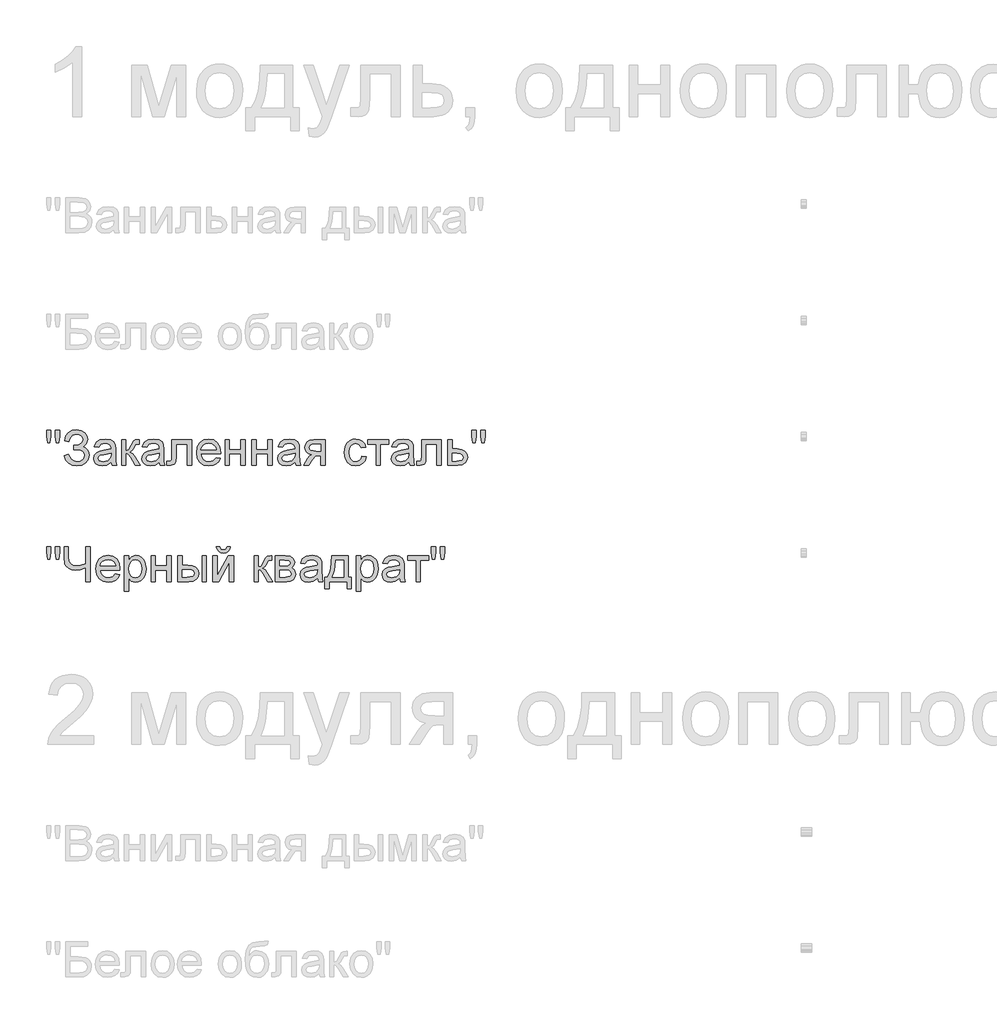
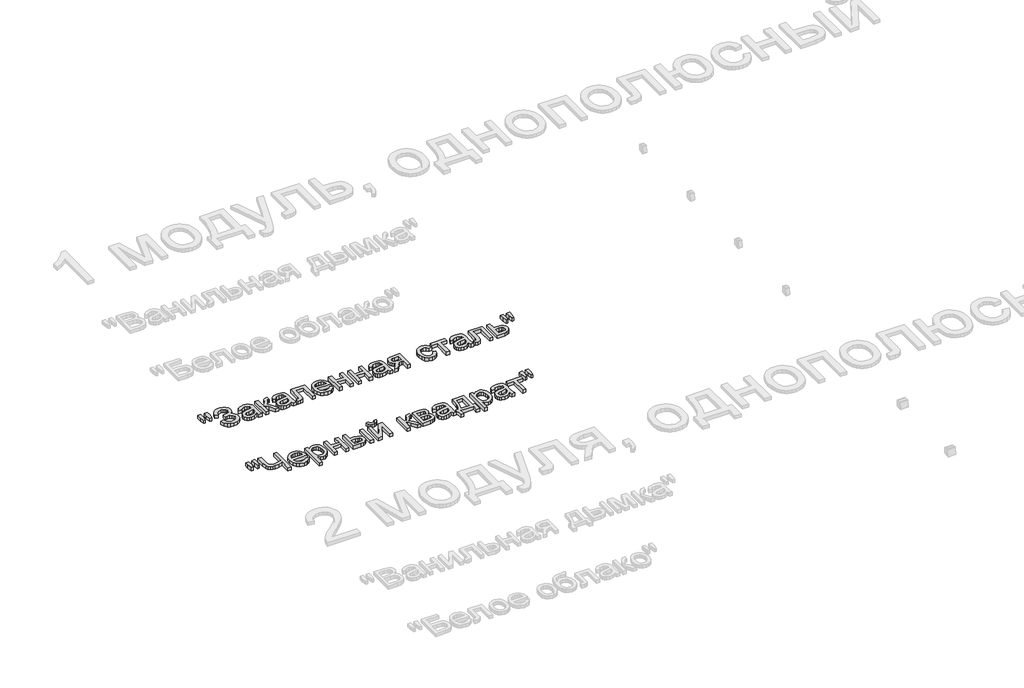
# One storey, part 18 of 168: 2 proxies.
"""IFC4 building model written with IfcOpenShell, lengths in millimetres."""

from ifc_helpers import new_model, si_unit, origin, origin_with_axes, place, context, project, spatial, polyline, outline, extrude, element, save

model = new_model("IFC4")

# Units and contexts
model_context = context("Model", 3, world=origin())
ifc_project = project(units=[si_unit("LENGTHUNIT", "METRE", prefix="MILLI")], contexts=[model_context])

# Site, building, storey
site = spatial("IfcSite", under=ifc_project)
building = spatial("IfcBuilding", under=site)
storey = spatial("IfcBuildingStorey", under=building, Name="Этаж 01", Elevation=0.0)

# Proxies
placement = place(None, origin())
element("IfcBuildingElementProxy", 1, Name="150", ObjectType="150", at=placement, inside=storey, context=model_context, shape_type="SweptSolid", body=[
    extrude(outline(polyline([(41980.1485789, -48064.0640488), (41975.550054, -48034.9645829), (41975.550054, -48009.9118191), (41994.3856121, -48009.9118191), (41994.3856121, -48034.9645829), (41990.2653338, -48064.0640488), (41980.1485789, -48064.0640488)])), origin_with_axes(), (0.0, 0.0, 1.0), 20.0),
    extrude(outline(polyline([(42017.7093306, -48064.0640488), (42013.2211703, -48034.9645829), (42013.2211703, -48009.9118191), (42032.0567284, -48009.9118191), (42032.0567284, -48034.9645829), (42027.6421445, -48064.0640488), (42017.7093306, -48064.0640488)])), origin_with_axes(), (0.0, 0.0, 1.0), 20.0),
    extrude(outline(polyline([(42050.8922866, -48118.2162785), (42069.7278447, -48113.5073889), (42081.2977335, -48133.9064456), (42092.2284273, -48141.5629896), (42106.2217387, -48144.1151709), (42120.398991, -48142.197586), (42131.2193202, -48136.4448313), (42138.0757209, -48127.9789469), (42140.3611878, -48117.9219729), (42137.8641888, -48107.3867522), (42130.3731916, -48099.2519616), (42118.5779752, -48094.0510299), (42103.1683181, -48092.317386), (42093.2722924, -48092.317386), (42093.2722924, -48073.4818278), (42114.591054, -48071.9551176), (42127.6324708, -48064.1560193), (42133.2978535, -48049.900592), (42131.4124583, -48041.0300373), (42125.7562726, -48033.4010845), (42116.8811195, -48028.1449705), (42105.3388219, -48026.3929325), (42086.1169876, -48031.7824037), (42075.117316, -48046.0746192), (42072.0822895, -48059.3551592), (42053.2467313, -48054.6462697), (42059.0983543, -48034.044878), (42069.7002536, -48019.3295982), (42085.0524291, -48010.5004303), (42105.1548809, -48007.5573743), (42124.5468605, -48010.6153934), (42139.4598769, -48019.7894506), (42148.965028, -48033.0561951), (42152.1334117, -48048.3922758), (42147.2037929, -48067.0346959), (42132.4149367, -48080.9498323), (42142.8903765, -48085.773685), (42151.5080123, -48093.9176727), (42157.2745625, -48104.6828196), (42159.196746, -48117.3701499), (42155.508729, -48135.2078281), (42144.444678, -48149.8725241), (42127.2921799, -48159.6811778), (42105.3388219, -48162.9507291), (42086.2365493, -48160.1548259), (42070.7947025, -48151.7671164), (42059.0132816, -48137.7876006), (42050.8922866, -48118.2162785)])), origin_with_axes(), (0.0, 0.0, 1.0), 20.0),
    extrude(outline(polyline([(42253.3745367, -48146.4696157), (42235.1091957, -48159.2351209), (42214.9308682, -48162.9507291), (42199.1901174, -48160.7158459), (42187.5788419, -48154.0111966), (42180.4189386, -48143.8300624), (42178.0323041, -48131.1657247), (42181.6375477, -48116.2665039), (42191.110509, -48105.4507732), (42204.2990786, -48099.2703557), (42220.596251, -48096.4376643), (42253.2641721, -48089.9629412), (42253.3745367, -48085.7690865), (42252.0777527, -48077.3629829), (42248.1874006, -48071.8631471), (42239.4869914, -48067.7796569), (42227.3652797, -48066.4184935), (42208.3089923, -48070.0421312), (42199.222307, -48082.8996069), (42180.3867489, -48080.5451621), (42188.5353351, -48062.1510624), (42204.9428721, -48051.3721199), (42229.7933008, -48047.5829354), (42252.6203786, -48050.9306615), (42265.5146426, -48059.3367651), (42271.2903899, -48072.1206645), (42272.2100949, -48088.6017778), (42272.2100949, -48112.0358609), (42273.1665881, -48144.7589644), (42276.9189844, -48160.5962843), (42258.0834263, -48160.5962843), (42253.3745367, -48146.4696157)]), holes=[polyline([(42253.3745367, -48108.7984994), (42222.9874839, -48114.5742467), (42206.782282, -48117.6276673), (42199.4430362, -48122.5940742), (42196.8678623, -48129.8413495), (42202.4780627, -48140.0316808), (42218.940782, -48144.1151709), (42237.9970693, -48139.6086165), (42250.284328, -48128.7009153), (42253.2641721, -48114.1327883), (42253.3745367, -48108.7984994)])]), origin_with_axes(), (0.0, 0.0, 1.0), 20.0),
    extrude(outline(polyline([(42298.1089873, -48049.9373802), (42316.9445455, -48049.9373802), (42316.9445455, -48097.0262755), (42329.5628979, -48093.6417612), (42339.900382, -48073.9232862), (42348.4904266, -48056.908744), (42356.0687957, -48051.3721199), (42369.8459764, -48049.9373802), (42373.4512199, -48049.9373802), (42373.4512199, -48068.8833029), (42368.3744484, -48068.7729383), (42359.1773985, -48070.7595011), (42352.7026754, -48083.1571243), (42345.1059122, -48096.566423), (42334.4557285, -48103.1331167), (42346.3383169, -48110.4631654), (42358.0001762, -48125.9050122), (42378.1601095, -48160.5962843), (42356.7493774, -48160.5962843), (42336.9941142, -48126.6407761), (42327.0613004, -48112.2749842), (42316.9445455, -48108.7984994), (42316.9445455, -48160.5962843), (42298.1089873, -48160.5962843), (42298.1089873, -48049.9373802)])), origin_with_axes(), (0.0, 0.0, 1.0), 20.0),
    extrude(outline(polyline([(42460.5656764, -48146.4696157), (42442.3003353, -48159.2351209), (42422.1220079, -48162.9507291), (42406.381257, -48160.7158459), (42394.7699816, -48154.0111966), (42387.6100782, -48143.8300624), (42385.2234438, -48131.1657247), (42388.8286873, -48116.2665039), (42398.3016487, -48105.4507732), (42411.4902183, -48099.2703557), (42427.7873906, -48096.4376643), (42460.4553118, -48089.9629412), (42460.5656764, -48085.7690865), (42459.2688924, -48077.3629829), (42455.3785403, -48071.8631471), (42446.6781311, -48067.7796569), (42434.5564193, -48066.4184935), (42415.500132, -48070.0421312), (42406.4134467, -48082.8996069), (42387.5778886, -48080.5451621), (42395.7264748, -48062.1510624), (42412.1340117, -48051.3721199), (42436.9844405, -48047.5829354), (42459.8115183, -48050.9306615), (42472.7057822, -48059.3367651), (42478.4815296, -48072.1206645), (42479.4012346, -48088.6017778), (42479.4012346, -48112.0358609), (42480.3577277, -48144.7589644), (42484.1101241, -48160.5962843), (42465.2745659, -48160.5962843), (42460.5656764, -48146.4696157)]), holes=[polyline([(42460.5656764, -48108.7984994), (42430.1786236, -48114.5742467), (42413.9734217, -48117.6276673), (42406.6341759, -48122.5940742), (42404.0590019, -48129.8413495), (42409.6692024, -48140.0316808), (42426.1319217, -48144.1151709), (42445.188209, -48139.6086165), (42457.4754676, -48128.7009153), (42460.4553118, -48114.1327883), (42460.5656764, -48108.7984994)])]), origin_with_axes(), (0.0, 0.0, 1.0), 20.0),
    extrude(outline(polyline([(42514.7179061, -48049.9373802), (42599.4779178, -48049.9373802), (42599.4779178, -48160.4859197), (42580.6423596, -48160.4859197), (42580.6423596, -48068.7729383), (42533.5534643, -48068.7729383), (42533.5534643, -48121.5640046), (42532.2842714, -48145.9177927), (42525.3129076, -48156.2000945), (42508.8317942, -48160.5962843), (42493.5279032, -48159.6397911), (42493.5279032, -48141.7607261), (42501.9524009, -48141.7607261), (42510.4688691, -48140.6018979), (42513.8717775, -48136.9230779), (42514.7179061, -48120.4971468), (42514.7179061, -48049.9373802)])), origin_with_axes(), (0.0, 0.0, 1.0), 20.0),
    extrude(outline(polyline([(42705.2072032, -48127.6340575), (42723.6748794, -48129.9885023), (42717.0208138, -48143.9036388), (42706.4028197, -48154.3055022), (42692.0600204, -48160.7894223), (42674.2315392, -48162.9507291), (42652.1310283, -48159.2213253), (42635.1256831, -48148.0331142), (42624.2823613, -48130.1126625), (42620.6679207, -48106.1865372), (42624.3191495, -48081.4556701), (42635.2728359, -48062.9604028), (42652.0482549, -48051.4273022), (42673.1646814, -48047.5829354), (42693.6235189, -48051.4181052), (42709.971275, -48062.9236146), (42720.6904367, -48081.3820937), (42724.2634906, -48106.0761726), (42724.153126, -48111.1529441), (42639.5034789, -48111.1529441), (42642.763833, -48125.2520216), (42650.3376036, -48135.6170968), (42661.2682974, -48141.9906524), (42674.5994212, -48144.1151709), (42693.0670974, -48140.1788336), (42705.2072032, -48127.6340575)]), holes=[polyline([(42639.5034789, -48092.317386), (42705.4279324, -48092.317386), (42702.8803496, -48082.366178), (42697.8863515, -48075.2476614), (42686.9050739, -48068.6257855), (42673.091105, -48066.4184935), (42660.3945777, -48068.1797286), (42649.8961452, -48073.4634337), (42642.5982861, -48081.6993919), (42639.5034789, -48092.317386)])]), origin_with_axes(), (0.0, 0.0, 1.0), 20.0),
    extrude(outline(polyline([(42743.0990487, -48049.9373802), (42761.9346069, -48049.9373802), (42761.9346069, -48092.317386), (42811.377947, -48092.317386), (42811.377947, -48049.9373802), (42830.2135052, -48049.9373802), (42830.2135052, -48160.5962843), (42811.377947, -48160.5962843), (42811.377947, -48111.1529441), (42761.9346069, -48111.1529441), (42761.9346069, -48160.5962843), (42743.0990487, -48160.5962843), (42743.0990487, -48049.9373802)])), origin_with_axes(), (0.0, 0.0, 1.0), 20.0),
    extrude(outline(polyline([(42858.4668424, -48049.9373802), (42877.3024005, -48049.9373802), (42877.3024005, -48092.317386), (42926.7457407, -48092.317386), (42926.7457407, -48049.9373802), (42945.5812988, -48049.9373802), (42945.5812988, -48160.5962843), (42926.7457407, -48160.5962843), (42926.7457407, -48111.1529441), (42877.3024005, -48111.1529441), (42877.3024005, -48160.5962843), (42858.4668424, -48160.5962843), (42858.4668424, -48049.9373802)])), origin_with_axes(), (0.0, 0.0, 1.0), 20.0),
    extrude(outline(polyline([(43044.4679792, -48146.4696157), (43026.2026381, -48159.2351209), (43006.0243107, -48162.9507291), (42990.2835598, -48160.7158459), (42978.6722843, -48154.0111966), (42971.512381, -48143.8300624), (42969.1257465, -48131.1657247), (42972.7309901, -48116.2665039), (42982.2039515, -48105.4507732), (42995.392521, -48099.2703557), (43011.6896934, -48096.4376643), (43044.3576146, -48089.9629412), (43044.4679792, -48085.7690865), (43043.1711951, -48077.3629829), (43039.280843, -48071.8631471), (43030.5804338, -48067.7796569), (43018.4587221, -48066.4184935), (42999.4024347, -48070.0421312), (42990.3157495, -48082.8996069), (42971.4801913, -48080.5451621), (42979.6287775, -48062.1510624), (42996.0363145, -48051.3721199), (43020.8867433, -48047.5829354), (43043.7138211, -48050.9306615), (43056.608085, -48059.3367651), (43062.3838323, -48072.1206645), (43063.3035373, -48088.6017778), (43063.3035373, -48112.0358609), (43064.2600305, -48144.7589644), (43068.0124268, -48160.5962843), (43049.1768687, -48160.5962843), (43044.4679792, -48146.4696157)]), holes=[polyline([(43044.4679792, -48108.7984994), (43014.0809264, -48114.5742467), (42997.8757245, -48117.6276673), (42990.5364787, -48122.5940742), (42987.9613047, -48129.8413495), (42993.5715051, -48140.0316808), (43010.0342244, -48144.1151709), (43029.0905118, -48139.6086165), (43041.3777704, -48128.7009153), (43044.3576146, -48114.1327883), (43044.4679792, -48108.7984994)])]), origin_with_axes(), (0.0, 0.0, 1.0), 20.0),
    extrude(outline(polyline([(43173.9624415, -48049.9373802), (43173.9624415, -48160.5962843), (43155.1268833, -48160.5962843), (43155.1268833, -48118.2162785), (43144.8629756, -48118.2162785), (43130.8834598, -48120.6075114), (43117.7500726, -48136.6839546), (43102.7404872, -48160.5962843), (43080.9618731, -48160.5962843), (43099.8710076, -48130.3563843), (43108.2219289, -48119.5038654), (43115.9106626, -48114.6846113), (43103.0347928, -48110.7390769), (43093.9848957, -48103.2434813), (43088.6322127, -48093.2738792), (43086.847985, -48081.9063255), (43089.2852032, -48069.0120616), (43096.5968579, -48058.8033362), (43108.5254316, -48052.1538692), (43124.8134069, -48049.9373802), (43173.9624415, -48049.9373802)]), holes=[polyline([(43155.1268833, -48068.7729383), (43130.2948486, -48068.7729383), (43117.4695626, -48069.8627887), (43110.1900976, -48073.1323399), (43105.6835431, -48083.3410653), (43107.3436107, -48090.5193627), (43112.3238132, -48095.4995653), (43135.8498668, -48099.3807203), (43155.1268833, -48099.3807203), (43155.1268833, -48068.7729383)])]), origin_with_axes(), (0.0, 0.0, 1.0), 20.0),
    extrude(outline(polyline([(43331.710241, -48120.5707232), (43350.5457991, -48122.925168), (43345.2942837, -48139.6775943), (43335.4258491, -48152.3373335), (43321.8693976, -48160.2973802), (43305.5538311, -48162.9507291), (43285.518058, -48159.2489165), (43269.8508835, -48148.1434788), (43259.7387272, -48130.1218595), (43256.3680084, -48105.6715024), (43257.8073467, -48088.909879), (43262.1253616, -48074.3831387), (43269.391031, -48062.6523016), (43279.6733328, -48054.2783877), (43291.974387, -48049.2567985), (43305.2963137, -48047.5829354), (43321.2118085, -48049.8821979), (43333.9359271, -48056.7799853), (43343.0639991, -48067.9084156), (43348.1913544, -48082.8996069), (43329.3557962, -48085.2540517), (43320.6185988, -48071.1457772), (43305.4434665, -48066.4184935), (43293.271171, -48068.7453472), (43283.6096701, -48075.725908), (43277.3050924, -48087.7372552), (43275.2035665, -48105.1564676), (43277.2591072, -48122.8102049), (43283.4257291, -48134.8629387), (43292.9124861, -48141.8021129), (43304.9284317, -48144.1151709), (43314.6819031, -48142.6712341), (43322.678738, -48138.3394236), (43328.4958721, -48131.0093748), (43331.710241, -48120.5707232)])), origin_with_axes(), (0.0, 0.0, 1.0), 20.0),
    extrude(outline(polyline([(43357.6091334, -48049.9373802), (43447.0780347, -48049.9373802), (43447.0780347, -48068.7729383), (43411.7613631, -48068.7729383), (43411.7613631, -48160.5962843), (43392.925805, -48160.5962843), (43392.925805, -48068.7729383), (43357.6091334, -48068.7729383), (43357.6091334, -48049.9373802)])), origin_with_axes(), (0.0, 0.0, 1.0), 20.0),
    extrude(outline(polyline([(43534.1924911, -48146.4696157), (43515.9271501, -48159.2351209), (43495.7488226, -48162.9507291), (43480.0080718, -48160.7158459), (43468.3967963, -48154.0111966), (43461.236893, -48143.8300624), (43458.8502585, -48131.1657247), (43462.4555021, -48116.2665039), (43471.9284634, -48105.4507732), (43485.117033, -48099.2703557), (43501.4142054, -48096.4376643), (43534.0821265, -48089.9629412), (43534.1924911, -48085.7690865), (43532.8957071, -48077.3629829), (43529.005355, -48071.8631471), (43520.3049458, -48067.7796569), (43508.1832341, -48066.4184935), (43489.1269467, -48070.0421312), (43480.0402614, -48082.8996069), (43461.2047033, -48080.5451621), (43469.3532895, -48062.1510624), (43485.7608265, -48051.3721199), (43510.6112552, -48047.5829354), (43533.438333, -48050.9306615), (43546.332597, -48059.3367651), (43552.1083443, -48072.1206645), (43553.0280493, -48088.6017778), (43553.0280493, -48112.0358609), (43553.9845425, -48144.7589644), (43557.7369388, -48160.5962843), (43538.9013807, -48160.5962843), (43534.1924911, -48146.4696157)]), holes=[polyline([(43534.1924911, -48108.7984994), (43503.8054383, -48114.5742467), (43487.6002364, -48117.6276673), (43480.2609906, -48122.5940742), (43477.6858167, -48129.8413495), (43483.2960171, -48140.0316808), (43499.7587364, -48144.1151709), (43518.8150237, -48139.6086165), (43531.1022824, -48128.7009153), (43534.0821265, -48114.1327883), (43534.1924911, -48108.7984994)])]), origin_with_axes(), (0.0, 0.0, 1.0), 20.0),
    extrude(outline(polyline([(43588.3447208, -48049.9373802), (43673.1047325, -48049.9373802), (43673.1047325, -48160.4859197), (43654.2691744, -48160.4859197), (43654.2691744, -48068.7729383), (43607.180279, -48068.7729383), (43607.180279, -48121.5640046), (43605.9110861, -48145.9177927), (43598.9397223, -48156.2000945), (43582.4586089, -48160.5962843), (43567.1547179, -48159.6397911), (43567.1547179, -48141.7607261), (43575.5792156, -48141.7607261), (43584.0956838, -48140.6018979), (43587.4985922, -48136.9230779), (43588.3447208, -48120.4971468), (43588.3447208, -48049.9373802)])), origin_with_axes(), (0.0, 0.0, 1.0), 20.0),
    extrude(outline(polyline([(43701.3580697, -48049.9373802), (43720.1936279, -48049.9373802), (43720.1936279, -48089.9629412), (43741.8986656, -48089.9629412), (43760.7158297, -48092.3219845), (43774.6401632, -48099.3991144), (43783.2486019, -48110.6241138), (43786.1180814, -48125.4267656), (43783.6762647, -48138.9050422), (43776.3508145, -48150.2771943), (43763.6542871, -48158.0165118), (43745.099239, -48160.5962843), (43701.3580697, -48160.5962843), (43701.3580697, -48049.9373802)]), holes=[polyline([(43720.1936279, -48141.7607261), (43737.7783873, -48141.7607261), (43760.4951005, -48137.8059947), (43765.5856676, -48132.7430187), (43767.2825233, -48125.4635538), (43762.260934, -48113.8752709), (43754.1905228, -48110.0676923), (43740.0224674, -48108.7984994), (43720.1936279, -48108.7984994), (43720.1936279, -48141.7607261)])]), origin_with_axes(), (0.0, 0.0, 1.0), 20.0),
    extrude(outline(polyline([(43809.5521645, -48064.0640488), (43804.9536396, -48034.9645829), (43804.9536396, -48009.9118191), (43823.7891977, -48009.9118191), (43823.7891977, -48034.9645829), (43819.6689194, -48064.0640488), (43809.5521645, -48064.0640488)])), origin_with_axes(), (0.0, 0.0, 1.0), 20.0),
    extrude(outline(polyline([(43847.1129162, -48064.0640488), (43842.6247559, -48034.9645829), (43842.6247559, -48009.9118191), (43861.460314, -48009.9118191), (43861.460314, -48034.9645829), (43857.0457301, -48064.0640488), (43847.1129162, -48064.0640488)])), origin_with_axes(), (0.0, 0.0, 1.0), 20.0),
])
element("IfcBuildingElementProxy", 2, Name="150", ObjectType="150", at=placement, inside=storey, context=model_context, shape_type="SweptSolid", body=[
    extrude(outline(polyline([(41980.1485789, -48564.0640488), (41975.550054, -48534.9645829), (41975.550054, -48509.9118191), (41994.3856121, -48509.9118191), (41994.3856121, -48534.9645829), (41990.2653338, -48564.0640488), (41980.1485789, -48564.0640488)])), origin_with_axes(), (0.0, 0.0, 1.0), 20.0),
    extrude(outline(polyline([(42017.7093306, -48564.0640488), (42013.2211703, -48534.9645829), (42013.2211703, -48509.9118191), (42032.0567284, -48509.9118191), (42032.0567284, -48534.9645829), (42027.6421445, -48564.0640488), (42017.7093306, -48564.0640488)])), origin_with_axes(), (0.0, 0.0, 1.0), 20.0),
    extrude(outline(polyline([(42163.9056355, -48660.5962843), (42145.0700773, -48660.5962843), (42145.0700773, -48600.2636371), (42120.0908899, -48608.4306174), (42098.4226404, -48611.1529441), (42083.7395502, -48609.2905415), (42070.886673, -48603.7033337), (42060.926268, -48595.2512449), (42054.9205944, -48584.7941992), (42050.8922866, -48554.7934225), (42050.8922866, -48509.9118191), (42069.7278447, -48509.9118191), (42069.7278447, -48552.2550367), (42071.990319, -48572.6219037), (42078.7777418, -48584.57347), (42088.7381468, -48590.381407), (42100.5195677, -48592.317386), (42122.2521966, -48589.9813353), (42145.0700773, -48582.9731833), (42145.0700773, -48509.9118191), (42163.9056355, -48509.9118191), (42163.9056355, -48660.5962843)])), origin_with_axes(), (0.0, 0.0, 1.0), 20.0),
    extrude(outline(polyline([(42271.9893657, -48627.6340575), (42290.4570418, -48629.9885023), (42283.8029762, -48643.9036388), (42273.1849822, -48654.3055022), (42258.8421829, -48660.7894223), (42241.0137017, -48662.9507291), (42218.9131908, -48659.2213253), (42201.9078456, -48648.0331142), (42191.0645238, -48630.1126625), (42187.4500832, -48606.1865372), (42191.101312, -48581.4556701), (42202.0549984, -48562.9604028), (42218.8304174, -48551.4273022), (42239.9468439, -48547.5829354), (42260.4056814, -48551.4181052), (42276.7534375, -48562.9236146), (42287.4725992, -48581.3820937), (42291.045653, -48606.0761726), (42290.9352884, -48611.1529441), (42206.2856413, -48611.1529441), (42209.5459955, -48625.2520216), (42217.1197661, -48635.6170968), (42228.0504599, -48641.9906524), (42241.3815837, -48644.1151709), (42259.8492598, -48640.1788336), (42271.9893657, -48627.6340575)]), holes=[polyline([(42206.2856413, -48592.317386), (42272.2100949, -48592.317386), (42269.6625121, -48582.366178), (42264.668514, -48575.2476614), (42253.6872364, -48568.6257855), (42239.8732675, -48566.4184935), (42227.1767401, -48568.1797286), (42216.6783077, -48573.4634337), (42209.3804486, -48581.6993919), (42206.2856413, -48592.317386)])]), origin_with_axes(), (0.0, 0.0, 1.0), 20.0),
    extrude(outline(polyline([(42309.8812112, -48702.9762901), (42309.8812112, -48549.9373802), (42328.7167693, -48549.9373802), (42328.7167693, -48568.4050563), (42341.739792, -48552.7884656), (42359.3245513, -48547.5829354), (42372.0624654, -48549.4039513), (42383.2000928, -48554.8669989), (42392.268384, -48563.6409845), (42398.7982894, -48575.3948142), (42404.0590019, -48604.4207036), (42402.5736784, -48620.5293365), (42398.1177077, -48634.9365151), (42390.8336442, -48646.9110741), (42380.8640422, -48655.7218479), (42369.2527667, -48661.1435088), (42357.043683, -48662.9507291), (42340.6545401, -48658.1130808), (42328.7167693, -48645.8810045), (42328.7167693, -48702.9762901), (42309.8812112, -48702.9762901)]), holes=[polyline([(42328.7167693, -48606.149749), (42330.7539159, -48623.0355326), (42336.8653555, -48634.8445446), (42345.8830629, -48641.7975143), (42356.6390128, -48644.1151709), (42367.5697066, -48641.7147409), (42376.8173402, -48634.5134508), (42383.1219179, -48622.2721775), (42385.2234438, -48604.7517974), (42383.1725017, -48587.9579844), (42377.0196753, -48575.9834254), (42368.0157635, -48568.8097265), (42357.411565, -48566.4184935), (42346.7659797, -48568.9614778), (42337.4171785, -48576.5904307), (42330.8918716, -48589.0662289), (42328.7167693, -48606.149749)])]), origin_with_axes(), (0.0, 0.0, 1.0), 20.0),
    extrude(outline(polyline([(42425.2490049, -48549.9373802), (42444.084563, -48549.9373802), (42444.084563, -48592.317386), (42493.5279032, -48592.317386), (42493.5279032, -48549.9373802), (42512.3634613, -48549.9373802), (42512.3634613, -48660.5962843), (42493.5279032, -48660.5962843), (42493.5279032, -48611.1529441), (42444.084563, -48611.1529441), (42444.084563, -48660.5962843), (42425.2490049, -48660.5962843), (42425.2490049, -48549.9373802)])), origin_with_axes(), (0.0, 0.0, 1.0), 20.0),
    extrude(outline(polyline([(42644.2123684, -48549.9373802), (42663.0479266, -48549.9373802), (42663.0479266, -48660.5962843), (42644.2123684, -48660.5962843), (42644.2123684, -48549.9373802)])), origin_with_axes(), (0.0, 0.0, 1.0), 20.0),
    extrude(outline(polyline([(42540.6167986, -48549.9373802), (42559.4523567, -48549.9373802), (42559.4523567, -48589.9629412), (42582.739287, -48589.9629412), (42602.8670307, -48592.3219845), (42617.780047, -48599.3991144), (42627.0092866, -48610.6241138), (42630.0856998, -48625.4267656), (42627.5059273, -48638.9050422), (42619.7666098, -48650.2771943), (42606.3619096, -48658.0165118), (42586.785989, -48660.5962843), (42540.6167986, -48660.5962843), (42540.6167986, -48549.9373802)]), holes=[polyline([(42559.4523567, -48641.7607261), (42578.8029497, -48641.7607261), (42603.7821371, -48637.8059947), (42609.3831405, -48632.7430187), (42611.2501416, -48625.4635538), (42605.7135176, -48613.8752709), (42596.8337659, -48610.0676923), (42581.267759, -48608.7984994), (42559.4523567, -48608.7984994), (42559.4523567, -48641.7607261)])]), origin_with_axes(), (0.0, 0.0, 1.0), 20.0),
    extrude(outline(polyline([(42691.3012638, -48549.9373802), (42710.1368219, -48549.9373802), (42710.1368219, -48634.3295098), (42756.4163769, -48549.9373802), (42780.770165, -48549.9373802), (42780.770165, -48660.5962843), (42761.9346069, -48660.5962843), (42761.9346069, -48576.7191894), (42715.9493575, -48660.5962843), (42691.3012638, -48660.5962843), (42691.3012638, -48549.9373802)])), origin_with_axes(), (0.0, 0.0, 1.0), 20.0),
    extrude(outline(polyline([(42752.5168278, -48509.9118191), (42766.6434964, -48509.9118191), (42763.6038714, -48521.97375), (42757.5016288, -48530.8626987), (42748.6126801, -48536.3395419), (42737.2129368, -48538.1651563), (42724.8429047, -48536.3533375), (42715.2503817, -48530.917881), (42708.6928851, -48522.0427279), (42705.4279324, -48509.9118191), (42719.554601, -48509.9118191), (42724.8521017, -48520.5252146), (42735.5206796, -48524.0384877), (42747.219327, -48520.6355792), (42752.5168278, -48509.9118191)])), origin_with_axes(), (0.0, 0.0, 1.0), 20.0),
    extrude(outline(polyline([(42867.8846215, -48549.9373802), (42886.7201796, -48549.9373802), (42886.7201796, -48597.0262755), (42899.3385321, -48593.6417612), (42909.6760161, -48573.9232862), (42918.2660607, -48556.908744), (42925.8444298, -48551.3721199), (42939.6216105, -48549.9373802), (42943.2268541, -48549.9373802), (42943.2268541, -48568.8833029), (42938.1500825, -48568.7729383), (42928.9530327, -48570.7595011), (42922.4783096, -48583.1571243), (42914.8815464, -48596.566423), (42904.2313626, -48603.1331167), (42916.113951, -48610.4631654), (42927.7758103, -48625.9050122), (42947.9357436, -48660.5962843), (42926.5250115, -48660.5962843), (42906.7697484, -48626.6407761), (42896.8369345, -48612.2749842), (42886.7201796, -48608.7984994), (42886.7201796, -48660.5962843), (42867.8846215, -48660.5962843), (42867.8846215, -48549.9373802)])), origin_with_axes(), (0.0, 0.0, 1.0), 20.0),
    extrude(outline(polyline([(42959.7079675, -48549.9373802), (43001.2050565, -48549.9373802), (43023.9585579, -48552.4573718), (43036.7608514, -48561.6912099), (43042.1135344, -48577.7860472), (43038.8761728, -48590.8642521), (43029.1273, -48600.1900607), (43041.7824406, -48610.3987861), (43046.8224239, -48628.1490923), (43043.6310476, -48642.5056872), (43036.0434815, -48652.613245), (43024.0321343, -48658.6005245), (43007.569415, -48660.5962843), (42959.7079675, -48660.5962843), (42959.7079675, -48549.9373802)]), holes=[polyline([(42978.5435256, -48592.317386), (42997.1583546, -48592.317386), (43012.5174279, -48591.3608928), (43019.9854324, -48587.5349201), (43023.2779762, -48580.6187385), (43021.8340394, -48574.9993411), (43017.5022289, -48571.3849005), (42997.7469658, -48568.7729383), (42978.5435256, -48568.7729383), (42978.5435256, -48592.317386)]), polyline([(42978.5435256, -48641.7607261), (43001.6465149, -48641.7607261), (43022.137542, -48638.3578177), (43026.377382, -48633.717906), (43027.9868658, -48626.6039879), (43024.7678983, -48617.5356968), (43016.3801888, -48612.2565901), (42999.8071049, -48611.1529441), (42978.5435256, -48611.1529441), (42978.5435256, -48641.7607261)])]), origin_with_axes(), (0.0, 0.0, 1.0), 20.0),
    extrude(outline(polyline([(43141.0002147, -48646.4696157), (43122.7348736, -48659.2351209), (43102.5565462, -48662.9507291), (43086.8157953, -48660.7158459), (43075.2045198, -48654.0111966), (43068.0446165, -48643.8300624), (43065.6579821, -48631.1657247), (43069.2632256, -48616.2665039), (43078.736187, -48605.4507732), (43091.9247565, -48599.2703557), (43108.2219289, -48596.4376643), (43140.8898501, -48589.9629412), (43141.0002147, -48585.7690865), (43139.7034307, -48577.3629829), (43135.8130786, -48571.8631471), (43127.1126694, -48567.7796569), (43114.9909576, -48566.4184935), (43095.9346703, -48570.0421312), (43086.847985, -48582.8996069), (43068.0124268, -48580.5451621), (43076.161013, -48562.1510624), (43092.56855, -48551.3721199), (43117.4189788, -48547.5829354), (43140.2460566, -48550.9306615), (43153.1403205, -48559.3367651), (43158.9160679, -48572.1206645), (43159.8357728, -48588.6017778), (43159.8357728, -48612.0358609), (43160.792266, -48644.7589644), (43164.5446624, -48660.5962843), (43145.7091042, -48660.5962843), (43141.0002147, -48646.4696157)]), holes=[polyline([(43141.0002147, -48608.7984994), (43110.6131619, -48614.5742467), (43094.40796, -48617.6276673), (43087.0687142, -48622.5940742), (43084.4935402, -48629.8413495), (43090.1037407, -48640.0316808), (43106.5664599, -48644.1151709), (43125.6227473, -48639.6086165), (43137.9100059, -48628.7009153), (43140.8898501, -48614.1327883), (43141.0002147, -48608.7984994)])]), origin_with_axes(), (0.0, 0.0, 1.0), 20.0),
    extrude(outline(polyline([(43202.2157787, -48549.9373802), (43272.8491218, -48549.9373802), (43272.8491218, -48641.7607261), (43286.9757904, -48641.7607261), (43286.9757904, -48691.2040663), (43268.1402322, -48691.2040663), (43268.1402322, -48660.5962843), (43190.4435548, -48660.5962843), (43190.4435548, -48691.2040663), (43171.6079967, -48691.2040663), (43171.6079967, -48641.7607261), (43183.3802205, -48641.7607261), (43191.9380754, -48626.2958868), (43197.9299534, -48605.8370493), (43202.2157787, -48549.9373802)]), holes=[polyline([(43218.6968921, -48568.7729383), (43214.2823081, -48611.686373), (43204.5702235, -48641.7607261), (43254.0135636, -48641.7607261), (43254.0135636, -48568.7729383), (43218.6968921, -48568.7729383)])]), origin_with_axes(), (0.0, 0.0, 1.0), 20.0),
    extrude(outline(polyline([(43308.1657933, -48702.9762901), (43308.1657933, -48549.9373802), (43327.0013514, -48549.9373802), (43327.0013514, -48568.4050563), (43340.0243741, -48552.7884656), (43357.6091334, -48547.5829354), (43370.3470475, -48549.4039513), (43381.4846749, -48554.8669989), (43390.5529661, -48563.6409845), (43397.0828715, -48575.3948142), (43402.3435841, -48604.4207036), (43400.8582605, -48620.5293365), (43396.4022898, -48634.9365151), (43389.1182263, -48646.9110741), (43379.1486243, -48655.7218479), (43367.5373488, -48661.1435088), (43355.3282651, -48662.9507291), (43338.9391222, -48658.1130808), (43327.0013514, -48645.8810045), (43327.0013514, -48702.9762901), (43308.1657933, -48702.9762901)]), holes=[polyline([(43327.0013514, -48606.149749), (43329.038498, -48623.0355326), (43335.1499376, -48634.8445446), (43344.167645, -48641.7975143), (43354.9235949, -48644.1151709), (43365.8542887, -48641.7147409), (43375.1019223, -48634.5134508), (43381.4065, -48622.2721775), (43383.5080259, -48604.7517974), (43381.4570838, -48587.9579844), (43375.3042574, -48575.9834254), (43366.3003456, -48568.8097265), (43355.6961471, -48566.4184935), (43345.0505618, -48568.9614778), (43335.7017606, -48576.5904307), (43329.1764537, -48589.0662289), (43327.0013514, -48606.149749)])]), origin_with_axes(), (0.0, 0.0, 1.0), 20.0),
    extrude(outline(polyline([(43494.1669301, -48646.4696157), (43475.901589, -48659.2351209), (43455.7232616, -48662.9507291), (43439.9825107, -48660.7158459), (43428.3712352, -48654.0111966), (43421.2113319, -48643.8300624), (43418.8246974, -48631.1657247), (43422.429941, -48616.2665039), (43431.9029024, -48605.4507732), (43445.0914719, -48599.2703557), (43461.3886443, -48596.4376643), (43494.0565655, -48589.9629412), (43494.1669301, -48585.7690865), (43492.870146, -48577.3629829), (43488.9797939, -48571.8631471), (43480.2793847, -48567.7796569), (43468.157673, -48566.4184935), (43449.1013856, -48570.0421312), (43440.0147004, -48582.8996069), (43421.1791422, -48580.5451621), (43429.3277284, -48562.1510624), (43445.7352654, -48551.3721199), (43470.5856942, -48547.5829354), (43493.412772, -48550.9306615), (43506.3070359, -48559.3367651), (43512.0827832, -48572.1206645), (43513.0024882, -48588.6017778), (43513.0024882, -48612.0358609), (43513.9589814, -48644.7589644), (43517.7113777, -48660.5962843), (43498.8758196, -48660.5962843), (43494.1669301, -48646.4696157)]), holes=[polyline([(43494.1669301, -48608.7984994), (43463.7798773, -48614.5742467), (43447.5746754, -48617.6276673), (43440.2354296, -48622.5940742), (43437.6602556, -48629.8413495), (43443.270456, -48640.0316808), (43459.7331753, -48644.1151709), (43478.7894627, -48639.6086165), (43491.0767213, -48628.7009153), (43494.0565655, -48614.1327883), (43494.1669301, -48608.7984994)])]), origin_with_axes(), (0.0, 0.0, 1.0), 20.0),
    extrude(outline(polyline([(43529.4836016, -48549.9373802), (43618.9525028, -48549.9373802), (43618.9525028, -48568.7729383), (43583.6358313, -48568.7729383), (43583.6358313, -48660.5962843), (43564.8002731, -48660.5962843), (43564.8002731, -48568.7729383), (43529.4836016, -48568.7729383), (43529.4836016, -48549.9373802)])), origin_with_axes(), (0.0, 0.0, 1.0), 20.0),
    extrude(outline(polyline([(43635.3232516, -48564.0640488), (43630.7247267, -48534.9645829), (43630.7247267, -48509.9118191), (43649.5602848, -48509.9118191), (43649.5602848, -48534.9645829), (43645.4400065, -48564.0640488), (43635.3232516, -48564.0640488)])), origin_with_axes(), (0.0, 0.0, 1.0), 20.0),
    extrude(outline(polyline([(43672.8840033, -48564.0640488), (43668.395843, -48534.9645829), (43668.395843, -48509.9118191), (43687.2314011, -48509.9118191), (43687.2314011, -48534.9645829), (43682.8168172, -48564.0640488), (43672.8840033, -48564.0640488)])), origin_with_axes(), (0.0, 0.0, 1.0), 20.0),
])

save(model, "model.ifc")
